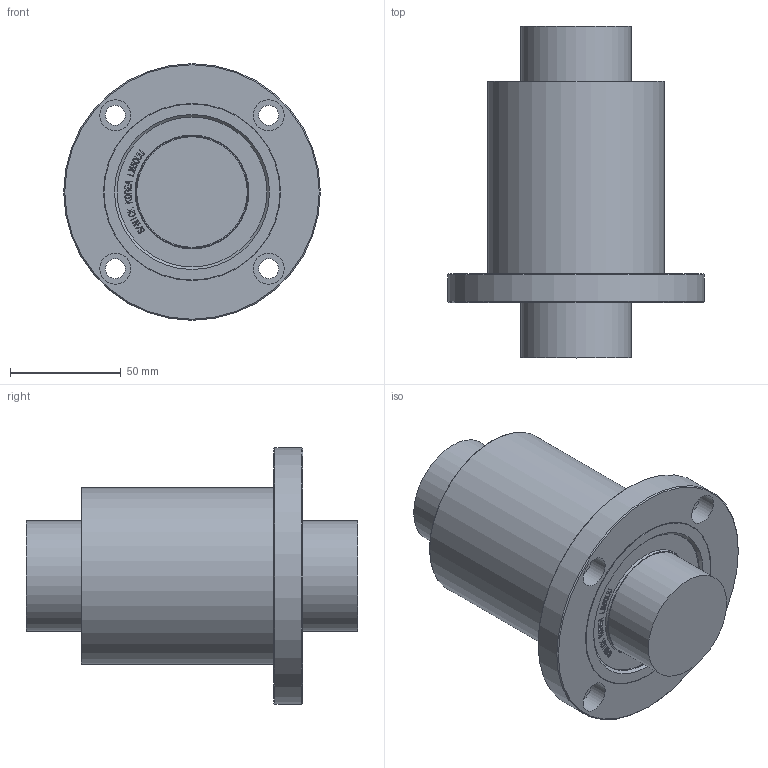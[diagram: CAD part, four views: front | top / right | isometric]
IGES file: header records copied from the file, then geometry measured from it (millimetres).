
Global section: file name: No Iges File Name specified; native system: Autodesk Inventor 2012; preprocessor: AutoDesk Inventor Iges Exporter R2012; author: user2; date: 20130206.160443; units: millimetre
Bounding box: 116 x 150 x 116 mm (x, y, z)
Volume: 660691.4 mm3; surface area: 57866.6 mm2
Topology: 1 solids, 1 shells, 851 faces, 2375 edges, 1582 vertices
Faces by surface type: bspline 600, plane 228, revolution 13, cone 4, cylinder 4, torus 2
Full cylindrical faces by diameter (mm): 50 x2, 80 x1, 116 x1
